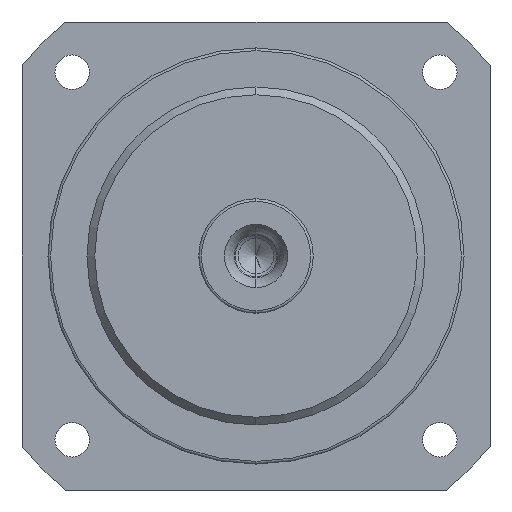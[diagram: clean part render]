
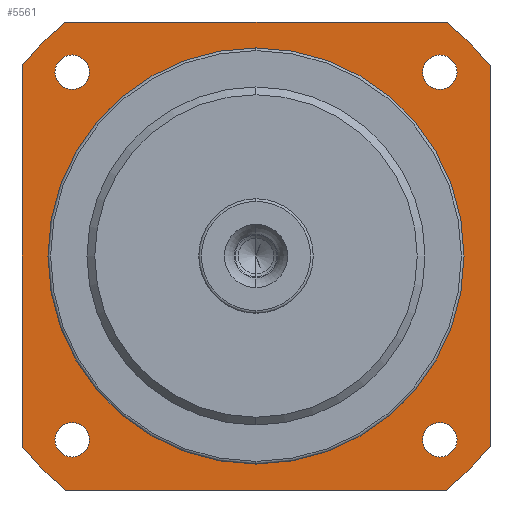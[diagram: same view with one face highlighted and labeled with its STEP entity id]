
A CAD part, left-side view. The second image highlights one B-rep face of the part: STEP entity #5561.
In plain terms, the highlighted planar face has unit normal (-1, 0, 0) as drawn and (0, 0, -1) by its records, which use the part's own axes.
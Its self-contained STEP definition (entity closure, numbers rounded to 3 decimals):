
#4535=CARTESIAN_POINT('',(35.355,-35.355,0.));
#4536=DIRECTION('',(0.,0.,1.));
#4537=DIRECTION('',(1.,0.,0.));
#4538=AXIS2_PLACEMENT_3D('',#4535,#4536,#4537);
#4540=CARTESIAN_POINT('',(35.355,-35.355,0.));
#4541=DIRECTION('',(0.,0.,1.));
#4542=DIRECTION('',(-1.,0.,0.));
#4543=AXIS2_PLACEMENT_3D('',#4540,#4541,#4542);
#4545=CARTESIAN_POINT('',(-35.355,-35.355,0.));
#4546=DIRECTION('',(0.,0.,1.));
#4547=DIRECTION('',(1.,0.,0.));
#4548=AXIS2_PLACEMENT_3D('',#4545,#4546,#4547);
#4550=CARTESIAN_POINT('',(-35.355,-35.355,0.));
#4551=DIRECTION('',(0.,0.,1.));
#4552=DIRECTION('',(-1.,0.,0.));
#4553=AXIS2_PLACEMENT_3D('',#4550,#4551,#4552);
#4555=CARTESIAN_POINT('',(-35.355,35.355,0.));
#4556=DIRECTION('',(0.,0.,1.));
#4557=DIRECTION('',(1.,0.,0.));
#4558=AXIS2_PLACEMENT_3D('',#4555,#4556,#4557);
#4560=CARTESIAN_POINT('',(-35.355,35.355,0.));
#4561=DIRECTION('',(0.,0.,1.));
#4562=DIRECTION('',(-1.,0.,0.));
#4563=AXIS2_PLACEMENT_3D('',#4560,#4561,#4562);
#4565=CARTESIAN_POINT('',(0.,0.,0.));
#4566=DIRECTION('',(0.,0.,1.));
#4567=DIRECTION('',(-0.776,-0.631,0.));
#4568=AXIS2_PLACEMENT_3D('',#4565,#4566,#4567);
#4570=DIRECTION('',(1.,0.,0.));
#4571=VECTOR('',#4570,73.185);
#4572=CARTESIAN_POINT('',(-36.592,-45.,0.));
#4573=LINE('',#4572,#4571);
#4574=CARTESIAN_POINT('',(0.,0.,0.));
#4575=DIRECTION('',(0.,0.,1.));
#4576=DIRECTION('',(0.631,-0.776,0.));
#4577=AXIS2_PLACEMENT_3D('',#4574,#4575,#4576);
#4579=DIRECTION('',(0.,1.,0.));
#4580=VECTOR('',#4579,73.185);
#4581=CARTESIAN_POINT('',(45.,-36.592,0.));
#4582=LINE('',#4581,#4580);
#4583=CARTESIAN_POINT('',(0.,0.,0.));
#4584=DIRECTION('',(0.,0.,1.));
#4585=DIRECTION('',(0.776,0.631,0.));
#4586=AXIS2_PLACEMENT_3D('',#4583,#4584,#4585);
#4588=DIRECTION('',(-1.,0.,0.));
#4589=VECTOR('',#4588,73.185);
#4590=CARTESIAN_POINT('',(36.592,45.,0.));
#4591=LINE('',#4590,#4589);
#4592=CARTESIAN_POINT('',(0.,0.,0.));
#4593=DIRECTION('',(0.,0.,1.));
#4594=DIRECTION('',(-0.631,0.776,0.));
#4595=AXIS2_PLACEMENT_3D('',#4592,#4593,#4594);
#4597=DIRECTION('',(0.,-1.,0.));
#4598=VECTOR('',#4597,73.185);
#4599=CARTESIAN_POINT('',(-45.,36.592,0.));
#4600=LINE('',#4599,#4598);
#4601=CARTESIAN_POINT('',(0.,0.,0.));
#4602=DIRECTION('',(0.,0.,1.));
#4603=DIRECTION('',(0.,-1.,0.));
#4604=AXIS2_PLACEMENT_3D('',#4601,#4602,#4603);
#4606=CARTESIAN_POINT('',(0.,0.,0.));
#4607=DIRECTION('',(0.,0.,1.));
#4608=DIRECTION('',(0.,1.,0.));
#4609=AXIS2_PLACEMENT_3D('',#4606,#4607,#4608);
#4611=CARTESIAN_POINT('',(35.355,35.355,0.));
#4612=DIRECTION('',(0.,0.,1.));
#4613=DIRECTION('',(1.,0.,0.));
#4614=AXIS2_PLACEMENT_3D('',#4611,#4612,#4613);
#4616=CARTESIAN_POINT('',(35.355,35.355,0.));
#4617=DIRECTION('',(0.,0.,1.));
#4618=DIRECTION('',(-1.,0.,0.));
#4619=AXIS2_PLACEMENT_3D('',#4616,#4617,#4618);
#5307=CARTESIAN_POINT('',(-45.,-36.592,0.));
#5308=CARTESIAN_POINT('',(-36.592,-45.,0.));
#5309=VERTEX_POINT('',#5307);
#5310=VERTEX_POINT('',#5308);
#5311=CARTESIAN_POINT('',(36.592,-45.,0.));
#5312=VERTEX_POINT('',#5311);
#5313=CARTESIAN_POINT('',(45.,-36.592,0.));
#5314=VERTEX_POINT('',#5313);
#5315=CARTESIAN_POINT('',(45.,36.592,0.));
#5316=VERTEX_POINT('',#5315);
#5317=CARTESIAN_POINT('',(36.592,45.,0.));
#5318=VERTEX_POINT('',#5317);
#5319=CARTESIAN_POINT('',(-36.592,45.,0.));
#5320=VERTEX_POINT('',#5319);
#5321=CARTESIAN_POINT('',(-45.,36.592,0.));
#5322=VERTEX_POINT('',#5321);
#5323=CARTESIAN_POINT('',(0.,-40.,0.));
#5324=CARTESIAN_POINT('',(0.,40.,0.));
#5325=VERTEX_POINT('',#5323);
#5326=VERTEX_POINT('',#5324);
#5439=CARTESIAN_POINT('',(38.655,35.355,0.));
#5440=CARTESIAN_POINT('',(32.055,35.355,0.));
#5441=VERTEX_POINT('',#5439);
#5442=VERTEX_POINT('',#5440);
#5447=CARTESIAN_POINT('',(-32.055,35.355,0.));
#5448=CARTESIAN_POINT('',(-38.655,35.355,0.));
#5449=VERTEX_POINT('',#5447);
#5450=VERTEX_POINT('',#5448);
#5455=CARTESIAN_POINT('',(-32.055,-35.355,0.));
#5456=CARTESIAN_POINT('',(-38.655,-35.355,0.));
#5457=VERTEX_POINT('',#5455);
#5458=VERTEX_POINT('',#5456);
#5463=CARTESIAN_POINT('',(38.655,-35.355,0.));
#5464=CARTESIAN_POINT('',(32.055,-35.355,0.));
#5465=VERTEX_POINT('',#5463);
#5466=VERTEX_POINT('',#5464);
#5509=CARTESIAN_POINT('',(0.,0.,0.));
#5510=DIRECTION('',(0.,0.,1.));
#5511=DIRECTION('',(0.,1.,0.));
#5512=AXIS2_PLACEMENT_3D('',#5509,#5510,#5511);
#5513=PLANE('',#5512);
#5515=ORIENTED_EDGE('',*,*,#5514,.T.);
#5517=ORIENTED_EDGE('',*,*,#5516,.T.);
#5519=ORIENTED_EDGE('',*,*,#5518,.T.);
#5521=ORIENTED_EDGE('',*,*,#5520,.T.);
#5523=ORIENTED_EDGE('',*,*,#5522,.T.);
#5525=ORIENTED_EDGE('',*,*,#5524,.T.);
#5527=ORIENTED_EDGE('',*,*,#5526,.T.);
#5529=ORIENTED_EDGE('',*,*,#5528,.T.);
#5530=EDGE_LOOP('',(#5515,#5517,#5519,#5521,#5523,#5525,#5527,#5529));
#5531=FACE_OUTER_BOUND('',#5530,.F.);
#5533=ORIENTED_EDGE('',*,*,#5532,.F.);
#5535=ORIENTED_EDGE('',*,*,#5534,.F.);
#5536=EDGE_LOOP('',(#5533,#5535));
#5537=FACE_BOUND('',#5536,.F.);
#5539=ORIENTED_EDGE('',*,*,#5538,.F.);
#5541=ORIENTED_EDGE('',*,*,#5540,.F.);
#5542=EDGE_LOOP('',(#5539,#5541));
#5543=FACE_BOUND('',#5542,.F.);
#5545=ORIENTED_EDGE('',*,*,#5544,.F.);
#5547=ORIENTED_EDGE('',*,*,#5546,.F.);
#5548=EDGE_LOOP('',(#5545,#5547));
#5549=FACE_BOUND('',#5548,.F.);
#5550=ORIENTED_EDGE('',*,*,#5498,.F.);
#5552=ORIENTED_EDGE('',*,*,#5551,.F.);
#5553=EDGE_LOOP('',(#5550,#5552));
#5554=FACE_BOUND('',#5553,.F.);
#5556=ORIENTED_EDGE('',*,*,#5555,.F.);
#5558=ORIENTED_EDGE('',*,*,#5557,.F.);
#5559=EDGE_LOOP('',(#5556,#5558));
#5560=FACE_BOUND('',#5559,.F.);
#5561=ADVANCED_FACE('',(#5531,#5537,#5543,#5549,#5554,#5560),#5513,.F.);
#4539=CIRCLE('',#4538,3.3);
#4544=CIRCLE('',#4543,3.3);
#4549=CIRCLE('',#4548,3.3);
#4554=CIRCLE('',#4553,3.3);
#4559=CIRCLE('',#4558,3.3);
#4564=CIRCLE('',#4563,3.3);
#4569=CIRCLE('',#4568,58.);
#4578=CIRCLE('',#4577,58.);
#4587=CIRCLE('',#4586,58.);
#4596=CIRCLE('',#4595,58.);
#4605=CIRCLE('',#4604,40.);
#4610=CIRCLE('',#4609,40.);
#4615=CIRCLE('',#4614,3.3);
#4620=CIRCLE('',#4619,3.3);
#5498=EDGE_CURVE('',#5325,#5326,#4605,.T.);
#5514=EDGE_CURVE('',#5309,#5310,#4569,.T.);
#5516=EDGE_CURVE('',#5310,#5312,#4573,.T.);
#5518=EDGE_CURVE('',#5312,#5314,#4578,.T.);
#5520=EDGE_CURVE('',#5314,#5316,#4582,.T.);
#5522=EDGE_CURVE('',#5316,#5318,#4587,.T.);
#5524=EDGE_CURVE('',#5318,#5320,#4591,.T.);
#5526=EDGE_CURVE('',#5320,#5322,#4596,.T.);
#5528=EDGE_CURVE('',#5322,#5309,#4600,.T.);
#5532=EDGE_CURVE('',#5457,#5458,#4549,.T.);
#5534=EDGE_CURVE('',#5458,#5457,#4554,.T.);
#5538=EDGE_CURVE('',#5449,#5450,#4559,.T.);
#5540=EDGE_CURVE('',#5450,#5449,#4564,.T.);
#5544=EDGE_CURVE('',#5465,#5466,#4539,.T.);
#5546=EDGE_CURVE('',#5466,#5465,#4544,.T.);
#5551=EDGE_CURVE('',#5326,#5325,#4610,.T.);
#5555=EDGE_CURVE('',#5441,#5442,#4615,.T.);
#5557=EDGE_CURVE('',#5442,#5441,#4620,.T.);
